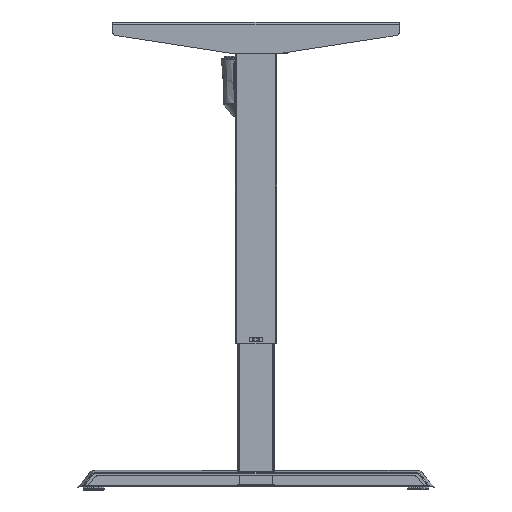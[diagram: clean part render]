
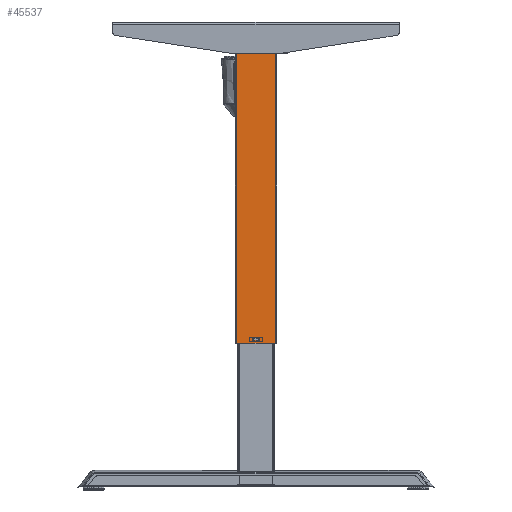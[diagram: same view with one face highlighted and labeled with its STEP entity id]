
A CAD part, left-side view. The second image highlights one B-rep face of the part: STEP entity #45537.
In plain terms, the highlighted planar face has unit normal (-1, 0, 0).
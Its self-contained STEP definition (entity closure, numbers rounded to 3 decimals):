
#189 = EDGE_CURVE ( 'NONE', #59613, #69552, #63746, .T. ) ;
#614 = EDGE_CURVE ( 'NONE', #9185, #69552, #68071, .T. ) ;
#1865 = EDGE_LOOP ( 'NONE', ( #20005, #35258, #47247, #43146 ) ) ;
#1919 = VECTOR ( 'NONE', #45209, 1000. ) ;
#2904 = DIRECTION ( 'NONE',  ( 0., -1., 0. ) ) ;
#3574 = CARTESIAN_POINT ( 'NONE',  ( -30., 37., 0. ) ) ;
#3745 = CARTESIAN_POINT ( 'NONE',  ( -30., 6., 10. ) ) ;
#4577 = CARTESIAN_POINT ( 'NONE',  ( -30., 40., 609. ) ) ;
#6818 = LINE ( 'NONE', #36059, #66740 ) ;
#9185 = VERTEX_POINT ( 'NONE', #3574 ) ;
#13848 = CARTESIAN_POINT ( 'NONE',  ( -30., -6., 6. ) ) ;
#15914 = PLANE ( 'NONE',  #27730 ) ;
#19104 = CARTESIAN_POINT ( 'NONE',  ( -30., 6., 6. ) ) ;
#20005 = ORIENTED_EDGE ( 'NONE', *, *, #66796, .T. ) ;
#21183 = CARTESIAN_POINT ( 'NONE',  ( -30., -6., 10. ) ) ;
#21359 = LINE ( 'NONE', #4577, #53003 ) ;
#21377 = CARTESIAN_POINT ( 'NONE',  ( -30., 37., 614. ) ) ;
#22024 = VERTEX_POINT ( 'NONE', #27386 ) ;
#22061 = DIRECTION ( 'NONE',  ( 0., -1., 0. ) ) ;
#22139 = VECTOR ( 'NONE', #48831, 1000. ) ;
#23007 = VERTEX_POINT ( 'NONE', #21183 ) ;
#24340 = EDGE_CURVE ( 'NONE', #32239, #9185, #67014, .T. ) ;
#27079 = EDGE_CURVE ( 'NONE', #22024, #23007, #6818, .T. ) ;
#27277 = DIRECTION ( 'NONE',  ( 0., 0., -1. ) ) ;
#27386 = CARTESIAN_POINT ( 'NONE',  ( -30., 6., 10. ) ) ;
#27730 = AXIS2_PLACEMENT_3D ( 'NONE', #21377, #44274, #32189 ) ;
#31159 = VECTOR ( 'NONE', #67490, 1000. ) ;
#31255 = CARTESIAN_POINT ( 'NONE',  ( -30., -37., 0. ) ) ;
#31961 = CARTESIAN_POINT ( 'NONE',  ( -30., 37., 0. ) ) ;
#32189 = DIRECTION ( 'NONE',  ( 0., 1., 0. ) ) ;
#32239 = VERTEX_POINT ( 'NONE', #65787 ) ;
#33273 = FACE_OUTER_BOUND ( 'NONE', #63351, .T. ) ;
#33364 = ORIENTED_EDGE ( 'NONE', *, *, #614, .T. ) ;
#33789 = VECTOR ( 'NONE', #2904, 1000. ) ;
#35258 = ORIENTED_EDGE ( 'NONE', *, *, #27079, .T. ) ;
#36059 = CARTESIAN_POINT ( 'NONE',  ( -30., 6., 10. ) ) ;
#37119 = LINE ( 'NONE', #3745, #22139 ) ;
#37747 = EDGE_CURVE ( 'NONE', #23007, #51097, #68918, .T. ) ;
#39549 = CARTESIAN_POINT ( 'NONE',  ( -30., 6., 6. ) ) ;
#40284 = FACE_BOUND ( 'NONE', #1865, .T. ) ;
#40648 = EDGE_CURVE ( 'NONE', #32239, #59613, #21359, .T. ) ;
#43146 = ORIENTED_EDGE ( 'NONE', *, *, #50899, .T. ) ;
#44274 = DIRECTION ( 'NONE',  ( 1., 0., 0. ) ) ;
#45209 = DIRECTION ( 'NONE',  ( 0., 1., 0. ) ) ;
#45537 = ADVANCED_FACE ( 'NONE', ( #40284, #33273 ), #15914, .F. ) ;
#47247 = ORIENTED_EDGE ( 'NONE', *, *, #37747, .T. ) ;
#48831 = DIRECTION ( 'NONE',  ( 0., 0., 1. ) ) ;
#49285 = ORIENTED_EDGE ( 'NONE', *, *, #40648, .F. ) ;
#50899 = EDGE_CURVE ( 'NONE', #51097, #55572, #61844, .T. ) ;
#51097 = VERTEX_POINT ( 'NONE', #13848 ) ;
#53003 = VECTOR ( 'NONE', #22061, 1000. ) ;
#53012 = DIRECTION ( 'NONE',  ( 0., -1., 0. ) ) ;
#54947 = DIRECTION ( 'NONE',  ( 0., 0., -1. ) ) ;
#55572 = VERTEX_POINT ( 'NONE', #19104 ) ;
#59613 = VERTEX_POINT ( 'NONE', #69125 ) ;
#60123 = CARTESIAN_POINT ( 'NONE',  ( -30., 37., 614. ) ) ;
#60454 = CARTESIAN_POINT ( 'NONE',  ( -30., -37., 614. ) ) ;
#60700 = ORIENTED_EDGE ( 'NONE', *, *, #24340, .T. ) ;
#61351 = CARTESIAN_POINT ( 'NONE',  ( -30., -6., 10. ) ) ;
#61844 = LINE ( 'NONE', #39549, #1919 ) ;
#63351 = EDGE_LOOP ( 'NONE', ( #72028, #49285, #60700, #33364 ) ) ;
#63746 = LINE ( 'NONE', #60454, #71666 ) ;
#64380 = VECTOR ( 'NONE', #54947, 1000. ) ;
#65787 = CARTESIAN_POINT ( 'NONE',  ( -30., 37., 609. ) ) ;
#66740 = VECTOR ( 'NONE', #53012, 1000. ) ;
#66796 = EDGE_CURVE ( 'NONE', #55572, #22024, #37119, .T. ) ;
#67014 = LINE ( 'NONE', #60123, #64380 ) ;
#67490 = DIRECTION ( 'NONE',  ( 0., 0., -1. ) ) ;
#68071 = LINE ( 'NONE', #31961, #33789 ) ;
#68918 = LINE ( 'NONE', #61351, #31159 ) ;
#69125 = CARTESIAN_POINT ( 'NONE',  ( -30., -37., 609. ) ) ;
#69552 = VERTEX_POINT ( 'NONE', #31255 ) ;
#71666 = VECTOR ( 'NONE', #27277, 1000. ) ;
#72028 = ORIENTED_EDGE ( 'NONE', *, *, #189, .F. ) ;
